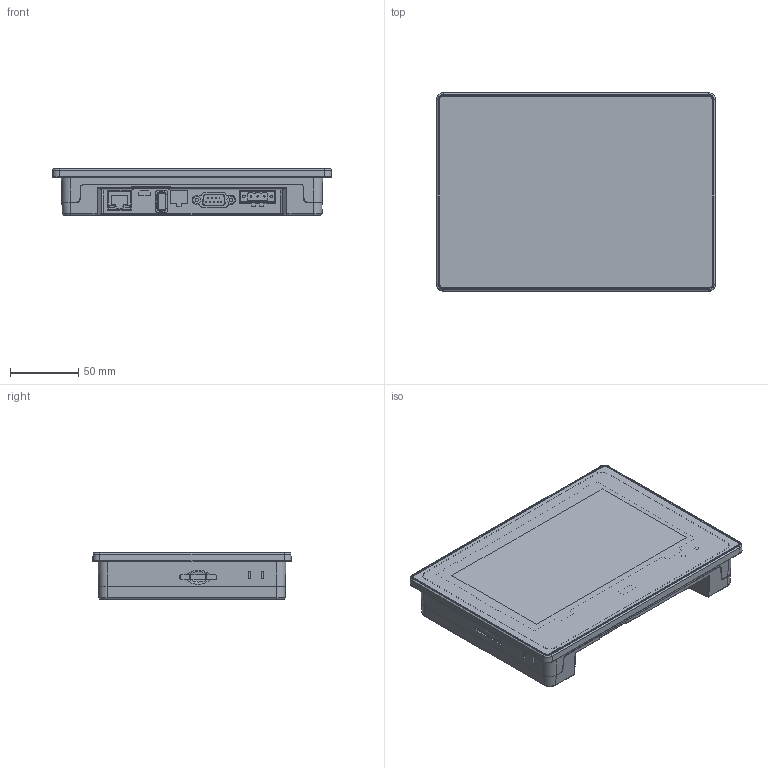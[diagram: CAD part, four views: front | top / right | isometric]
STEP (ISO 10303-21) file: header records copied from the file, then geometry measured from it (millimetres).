
FILE_DESCRIPTION(/* description */ (''),/* implementation_level */ '2;1');
FILE_NAME(/* name */ 'VI20-070S-FE-3d',/* time_stamp */ '2022-11-21T09:34:09+08:00',/* author */ (''),/* organization */ (''),/* preprocessor_version */ 'ST-DEVELOPER v16.5',/* originating_system */ '',/* authorisation */ '');
FILE_SCHEMA (('AUTOMOTIVE_DESIGN'));
Length unit declared in the file: millimetre
Products named in the file (2): Document; Block 01
Assembly tree (1 placements, depth 2):
  Document
    Block 01
Bounding box: 203.92 x 144.92 x 34.2 mm (x, y, z)
Volume: 743049.3 mm3; surface area: 198749.4 mm2
Topology: 26 solids, 26 shells, 1187 faces, 3144 edges, 2034 vertices
Faces by surface type: plane 754, bspline 433
Entity records: 44592 total; most frequent: CARTESIAN_POINT 24541, ORIENTED_EDGE 6228, EDGE_CURVE 3114, B_SPLINE_CURVE_WITH_KNOTS 2512, VERTEX_POINT 2010, EDGE_LOOP 1258, ADVANCED_FACE 1187, FACE_OUTER_BOUND 1187
